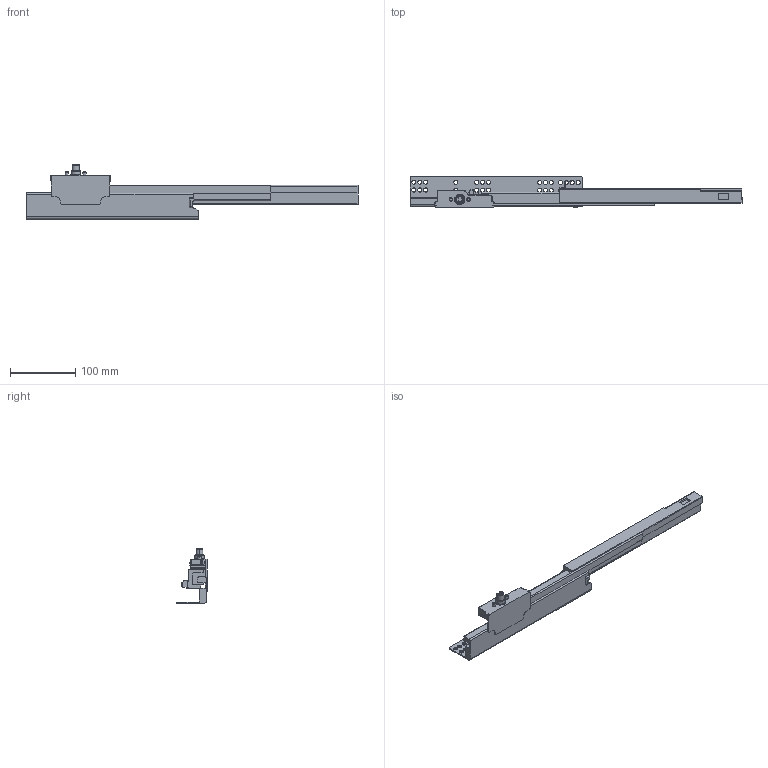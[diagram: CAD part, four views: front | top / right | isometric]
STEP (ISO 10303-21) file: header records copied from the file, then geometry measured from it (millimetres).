
FILE_DESCRIPTION (( 'STEP AP203' ), '1' );
FILE_NAME ('TF10300H-R-DTC3D-open.STEP', '2021-06-05T07:43:04', ( 'df' ), ( 'Microsoft' ), 'SwSTEP 2.0', 'SolidWorks 2018', '' );
FILE_SCHEMA (( 'CONFIG_CONTROL_DESIGN' ));
Length unit declared in the file: millimetre
Products named in the file (1): TF10300H-R-DTC3D-open
Bounding box: 507.3 x 48 x 83.3 mm (x, y, z)
Volume: 326536.4 mm3; surface area: 96776.2 mm2
Topology: 1 solids, 4 shells, 520 faces, 1340 edges, 827 vertices
Faces by surface type: cylinder 245, plane 167, bspline 102, sphere 4, torus 2
Entity records: 18018 total; most frequent: CARTESIAN_POINT 5539, ORIENTED_EDGE 2658, DIRECTION 2567, EDGE_CURVE 1329, AXIS2_PLACEMENT_3D 953, VERTEX_POINT 827, VECTOR 661, LINE 661
